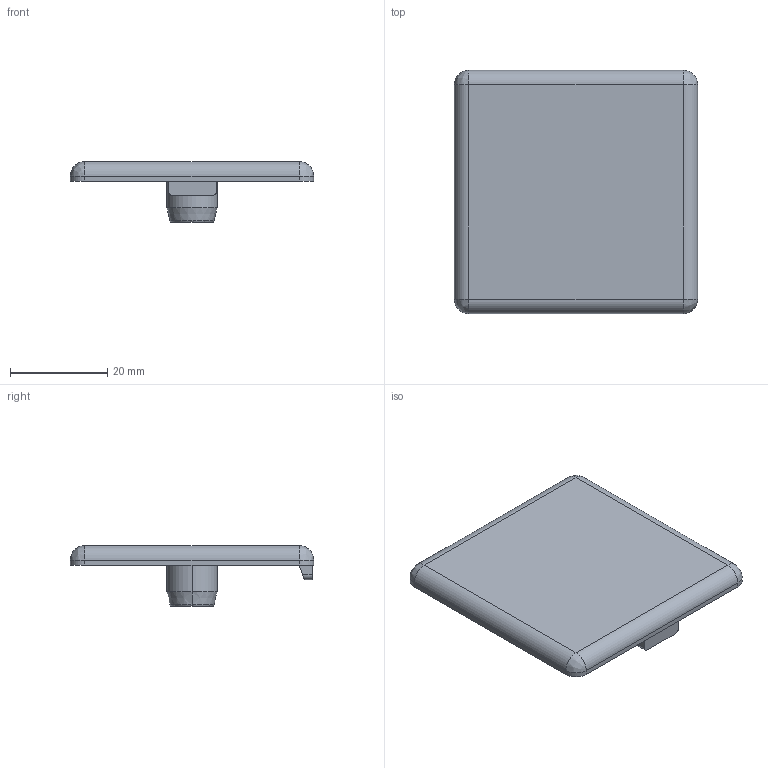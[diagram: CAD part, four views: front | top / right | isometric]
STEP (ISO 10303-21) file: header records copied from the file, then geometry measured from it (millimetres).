
FILE_DESCRIPTION (( 'STEP AP203' ), '1' );
FILE_NAME ('0110AK5050.STEP', '2024-03-06T14:37:23', ( 'Windows-Benutzer' ), ( '' ), 'SwSTEP 2.0', 'SolidWorks 2023', '' );
FILE_SCHEMA (( 'CONFIG_CONTROL_DESIGN' ));
Length unit declared in the file: millimetre
Products named in the file (1): 0110AK5050
Bounding box: 50 x 50 x 12.5 mm (x, y, z)
Volume: 8234.2 mm3; surface area: 6197.5 mm2
Topology: 1 solids, 1 shells, 40 faces, 91 edges, 52 vertices
Faces by surface type: plane 18, cylinder 12, bspline 6, cone 4
Entity records: 1222 total; most frequent: CARTESIAN_POINT 276, DIRECTION 187, ORIENTED_EDGE 174, EDGE_CURVE 87, AXIS2_PLACEMENT_3D 67, VECTOR 53, LINE 53, VERTEX_POINT 52
